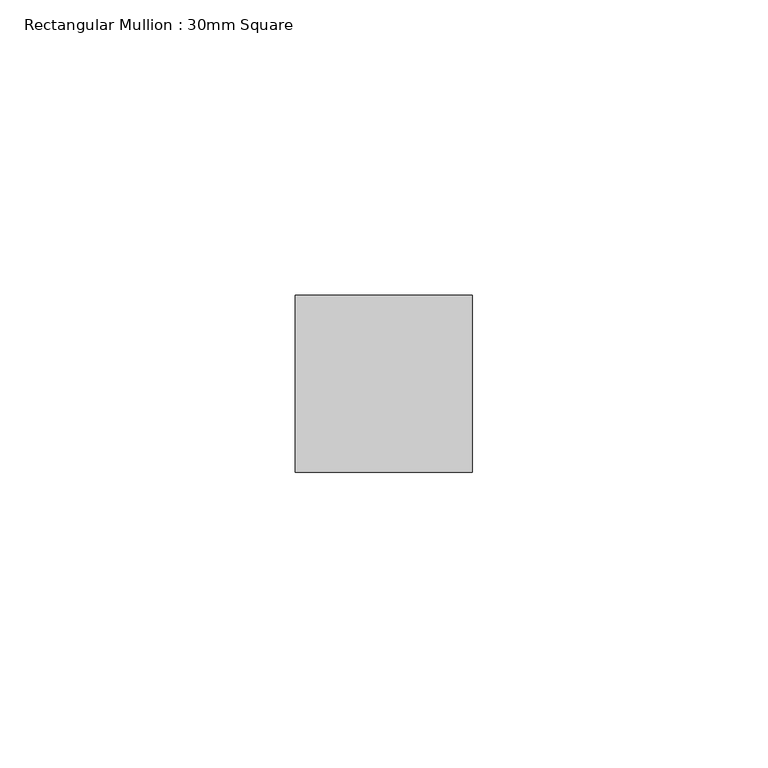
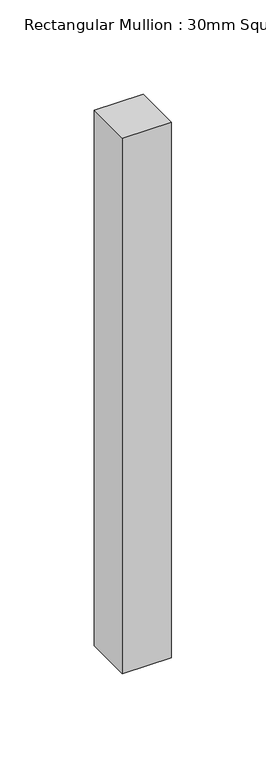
"""IFC4 building model written with IfcOpenShell, lengths in millimetres: member geometry, Rectangular Mullion : 30mm Square."""

import ifcopenshell
import ifcopenshell.guid

model = None  # the IFC model being written
_history = None  # IfcOwnerHistory: only IFC2X3 demands one
_inside = {}  # id of a spatial element -> (the spatial element, [elements in it])
_under = {}  # id of a project, library or spatial element -> (it, [spatial elements below it])
_declared = {}  # id of a project -> (the project, [libraries it declares])
_typed = {}  # id of a type object -> (the type object, [elements of that type])
_made_of = {}  # id of a material, layer set ... -> (it, [elements and type objects made of it])


def new_model(schema):
    """Start an empty IFC model of exactly this schema.

    Asked for "IFC4X3", IfcOpenShell would pick the latest addendum, in which some entities
    have other attributes; the version numbers below select the first issue.
    IFC2X3 requires an IfcOwnerHistory on every rooted entity: one is made here for all.
    """
    global model, _history
    if schema == "IFC4X3":
        model = ifcopenshell.file(schema_version=(4, 3, 0, 0))
    else:
        model = ifcopenshell.file(schema=schema)
    _inside.clear()
    _under.clear()
    _declared.clear()
    _typed.clear()
    _made_of.clear()
    _history = None
    if model.schema == "IFC2X3":
        org = make("IfcOrganization", Name="unknown")
        user = make(
            "IfcPersonAndOrganization",
            ThePerson=make("IfcPerson", FamilyName="unknown"),
            TheOrganization=org,
        )
        app = make(
            "IfcApplication",
            ApplicationDeveloper=org,
            Version="unknown",
            ApplicationFullName="unknown",
            ApplicationIdentifier="unknown",
        )
        _history = make(
            "IfcOwnerHistory",
            OwningUser=user,
            OwningApplication=app,
            ChangeAction="ADDED",
            CreationDate=0,
        )
    return model


def make(cls, **values):
    """One entity of the class cls with the attributes given. An attribute that is None is left unset."""
    return model.create_entity(
        cls, **{name: value for name, value in values.items() if value is not None}
    )


def rooted(cls, **values):
    """An entity with a GlobalId (a new one), such as an element, a storey or a relation."""
    return make(cls, GlobalId=ifcopenshell.guid.new(), OwnerHistory=_history, **values)


def si_unit(unit_type, name, prefix=None):
    """IfcSIUnit, for example si_unit("LENGTHUNIT", "METRE", prefix="MILLI")."""
    return make("IfcSIUnit", UnitType=unit_type, Prefix=prefix, Name=name)


def assignment(units):
    """IfcUnitAssignment: the units of a project."""
    return None if units is None else make("IfcUnitAssignment", Units=units)


def point(xyz):
    """IfcCartesianPoint."""
    return None if xyz is None else make("IfcCartesianPoint", Coordinates=xyz)


def direction(xyz):
    """IfcDirection."""
    return None if xyz is None else make("IfcDirection", DirectionRatios=xyz)


def frame(location, z_axis=None, x_axis=None):
    """IfcAxis2Placement3D, a coordinate frame: its origin and axes. An axis left out is left unset."""
    return make(
        "IfcAxis2Placement3D",
        Location=point(location),
        Axis=direction(z_axis),
        RefDirection=direction(x_axis),
    )


def origin():
    """The frame at (0, 0, 0) with its axes left unset."""
    return frame((0.0, 0.0, 0.0))


def place(relative_to, where):
    """IfcLocalPlacement: puts the frame where relative to a parent placement (None: the world)."""
    return make(
        "IfcLocalPlacement", PlacementRelTo=relative_to, RelativePlacement=where
    )


def context(
    kind, dimensions, precision=None, world=None, true_north=None, identifier=None
):
    """IfcGeometricRepresentationContext, for example the 3D "Model" context."""
    return make(
        "IfcGeometricRepresentationContext",
        ContextIdentifier=identifier,
        ContextType=kind,
        CoordinateSpaceDimension=dimensions,
        Precision=precision,
        WorldCoordinateSystem=world,
        TrueNorth=true_north,
    )


def project(units=None, contexts=None):
    """IfcProject with its units and contexts."""
    return rooted(
        "IfcProject",
        Name="project",
        RepresentationContexts=contexts,
        UnitsInContext=assignment(units),
    )


def spatial(cls, under=None, at=None, **own):
    """A site, building, storey or space (cls), placed at a placement, below another one or the project."""
    s = rooted(cls, ObjectPlacement=at, **own)
    if under is not None:
        _under.setdefault(under.id(), (under, []))[1].append(s)
    return s


def polyline(points):
    """IfcPolyline through the points."""
    return make("IfcPolyline", Points=[point(p) for p in points])


def outline(outer, holes=None, kind="AREA"):
    """IfcArbitraryClosedProfileDef: a profile drawn as a closed curve; with holes, ...WithVoids."""
    if holes is None:
        return make("IfcArbitraryClosedProfileDef", ProfileType=kind, OuterCurve=outer)
    return make(
        "IfcArbitraryProfileDefWithVoids",
        ProfileType=kind,
        OuterCurve=outer,
        InnerCurves=holes,
    )


def extrude(swept, where, along, depth):
    """IfcExtrudedAreaSolid: the profile swept, set in the frame where, extruded along a direction by depth."""
    return make(
        "IfcExtrudedAreaSolid",
        SweptArea=swept,
        Position=where,
        ExtrudedDirection=direction(along),
        Depth=depth,
    )


def shape(context_of_items, identifier, shape_type, items):
    """IfcShapeRepresentation: the items that make up one representation, for example the "Body"."""
    return make(
        "IfcShapeRepresentation",
        ContextOfItems=context_of_items,
        RepresentationIdentifier=identifier,
        RepresentationType=shape_type,
        Items=items,
    )


def source(mapping_origin, context_of_items, identifier, shape_type, items):
    """IfcRepresentationMap: a shape defined once, which mapped items show again and again."""
    return make(
        "IfcRepresentationMap",
        MappingOrigin=mapping_origin,
        MappedRepresentation=shape(context_of_items, identifier, shape_type, items),
    )


def transform(
    local_origin,
    x_axis=None,
    y_axis=None,
    z_axis=None,
    scale=None,
    scale2=None,
    scale3=None,
    uniform=True,
):
    """IfcCartesianTransformationOperator3D, or its non-uniform kind. x_axis, y_axis, z_axis: its Axis1, 2, 3."""
    if uniform:
        return make(
            "IfcCartesianTransformationOperator3D",
            Axis1=direction(x_axis),
            Axis2=direction(y_axis),
            LocalOrigin=point(local_origin),
            Scale=scale,
            Axis3=direction(z_axis),
        )
    return make(
        "IfcCartesianTransformationOperator3DnonUniform",
        Axis1=direction(x_axis),
        Axis2=direction(y_axis),
        LocalOrigin=point(local_origin),
        Scale=scale,
        Axis3=direction(z_axis),
        Scale2=scale2,
        Scale3=scale3,
    )


def mapped(mapping_source, mapping_target):
    """IfcMappedItem: shows the shape of a source again, moved by a transform."""
    return make(
        "IfcMappedItem", MappingSource=mapping_source, MappingTarget=mapping_target
    )


def made_of(thing, what):
    """Note that an element or type object is made of a material, layer set ...; save() writes the relation."""
    if what is not None:
        _made_of.setdefault(what.id(), (what, []))[1].append(thing)
    return thing


def element(
    cls,
    number,
    at=None,
    inside=None,
    cuts=None,
    type_object=None,
    material=None,
    context=None,
    identifier="Body",
    shape_type=None,
    held_by="IfcProductDefinitionShape",
    body=None,
    shapes=None,
    **own,
):
    """One element of the class cls, such as IfcWall. Its Tag is "e" and its number.

    at: its placement. inside: the storey or other place that contains it. cuts: it is an
    opening in that element (IfcRelVoidsElement). A single representation is given by context,
    identifier, shape_type and body (its items); several are given by shapes. held_by: the class
    of the entity that holds the representations. save() writes the other relations.
    """
    e = rooted(cls, Tag="e%d" % number, ObjectPlacement=at, **own)
    if body is not None:
        shapes = [shape(context, identifier, shape_type, body)]
    if shapes is not None:
        e.Representation = make(held_by, Representations=shapes)
    if inside is not None:
        _inside.setdefault(inside.id(), (inside, []))[1].append(e)
    if cuts is not None:
        rooted(
            "IfcRelVoidsElement", RelatingBuildingElement=cuts, RelatedOpeningElement=e
        )
    if type_object is not None:
        _typed.setdefault(type_object.id(), (type_object, []))[1].append(e)
    return made_of(e, material)


def aggregate(whole, parts):
    """IfcRelAggregates: a whole, such as a stair, and the parts it consists of."""
    return rooted("IfcRelAggregates", RelatingObject=whole, RelatedObjects=parts)


def save(model, path):
    """Write the relations noted so far, then the file.

    IfcRelAggregates (storeys below a building ...), IfcRelContainedInSpatialStructure (elements
    in a storey), IfcRelDefinesByType, IfcRelAssociatesMaterial and IfcRelDeclares: one each for
    every whole, place, type object, material and project.
    """
    for whole, parts in _under.values():
        aggregate(whole, parts)
    for where, things in _inside.values():
        rooted(
            "IfcRelContainedInSpatialStructure",
            RelatedElements=things,
            RelatingStructure=where,
        )
    for kind, things in _typed.values():
        rooted("IfcRelDefinesByType", RelatedObjects=things, RelatingType=kind)
    for what, things in _made_of.values():
        rooted("IfcRelAssociatesMaterial", RelatedObjects=things, RelatingMaterial=what)
    for by, libraries in _declared.values():
        rooted("IfcRelDeclares", RelatingContext=by, RelatedDefinitions=libraries)
    model.write(path)


def rectangular_mullion_30mm_square_c053b5b2(model_context):
    return source(origin(), model_context, "Body", "SweptSolid", [
        extrude(outline(polyline([(0.0, 15.0), (0.0, -15.0), (-30.0, -15.0), (-30.0, 15.0), (0.0, 15.0)])), frame((0.0, 0.0, -346.9650626), z_axis=(0.0, 0.0, 1.0), x_axis=(1.0, 0.0, 0.0)), (0.0, 0.0, 1.0), 346.9650626),
    ])


if __name__ == "__main__":
    model = new_model("IFC4")
    model_context = context("Model", 3, world=origin())
    ifc_project = project(units=[si_unit("LENGTHUNIT", "METRE", prefix="MILLI")], contexts=[model_context])
    site = spatial("IfcSite", under=ifc_project)
    building = spatial("IfcBuilding", under=site)
    placement = place(None, origin())
    rectangular_mullion_30mm_square_shape = rectangular_mullion_30mm_square_c053b5b2(model_context)
    element("IfcMember", 1, ObjectType="Rectangular Mullion : 30mm Square", at=placement, inside=building, context=model_context, shape_type="MappedRepresentation", body=[
        mapped(rectangular_mullion_30mm_square_shape, transform((0.0, 0.0, 0.0), x_axis=(1.0, 0.0, 0.0), y_axis=(0.0, 1.0, 0.0), z_axis=(0.0, 0.0, 1.0))),
    ])
    save(model, "model.ifc")
